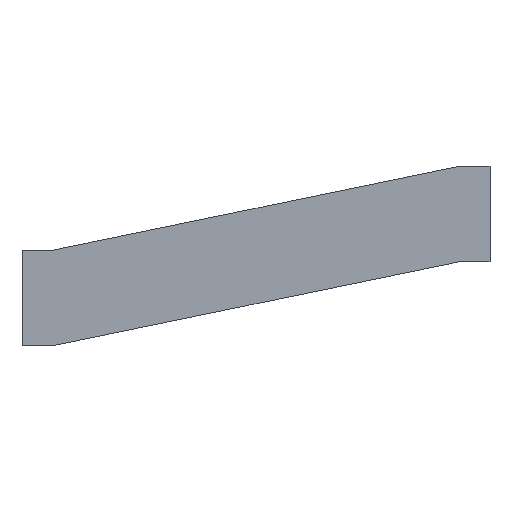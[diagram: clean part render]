
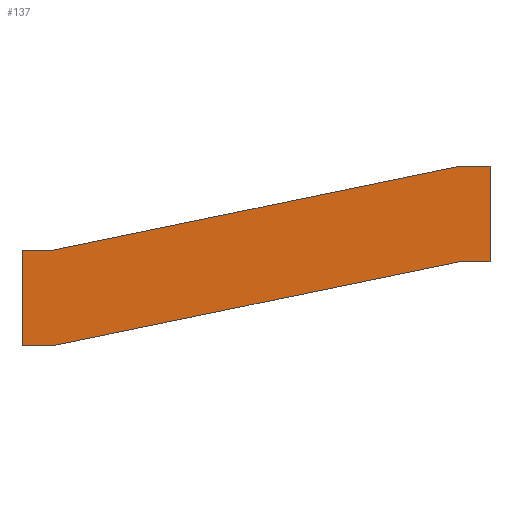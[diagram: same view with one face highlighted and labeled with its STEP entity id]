
A CAD part, front view. The second image highlights one B-rep face of the part: STEP entity #137.
In plain terms, the highlighted planar face has unit normal (0, -1, 0).
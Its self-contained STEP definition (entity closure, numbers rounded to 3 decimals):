
#21 = EDGE_CURVE('',#22,#24,#26,.T.);
#22 = VERTEX_POINT('',#23);
#23 = CARTESIAN_POINT('',(105.95,58.4,149.05));
#24 = VERTEX_POINT('',#25);
#25 = CARTESIAN_POINT('',(105.95,58.4,151.55));
#26 = SURFACE_CURVE('',#27,(#31,#43),.PCURVE_S1.);
#27 = LINE('',#28,#29);
#28 = CARTESIAN_POINT('',(105.95,58.4,149.05));
#29 = VECTOR('',#30,1.);
#30 = DIRECTION('',(0.,0.,1.));
#31 = PCURVE('',#32,#37);
#32 = PLANE('',#33);
#33 = AXIS2_PLACEMENT_3D('',#34,#35,#36);
#34 = CARTESIAN_POINT('',(105.95,58.4,149.05));
#35 = DIRECTION('',(1.,0.,0.));
#36 = DIRECTION('',(0.,0.,1.));
#37 = DEFINITIONAL_REPRESENTATION('',(#38),#42);
#38 = LINE('',#39,#40);
#39 = CARTESIAN_POINT('',(0.,0.));
#40 = VECTOR('',#41,1.);
#41 = DIRECTION('',(1.,0.));
#42 = ( GEOMETRIC_REPRESENTATION_CONTEXT(2) 
PARAMETRIC_REPRESENTATION_CONTEXT() REPRESENTATION_CONTEXT('2D SPACE',''
  ) );
#43 = PCURVE('',#44,#49);
#44 = PLANE('',#45);
#45 = AXIS2_PLACEMENT_3D('',#46,#47,#48);
#46 = CARTESIAN_POINT('',(105.95,58.4,149.05));
#47 = DIRECTION('',(0.,1.,0.));
#48 = DIRECTION('',(0.,0.,1.));
#49 = DEFINITIONAL_REPRESENTATION('',(#50),#54);
#50 = LINE('',#51,#52);
#51 = CARTESIAN_POINT('',(0.,0.));
#52 = VECTOR('',#53,1.);
#53 = DIRECTION('',(1.,0.));
#54 = ( GEOMETRIC_REPRESENTATION_CONTEXT(2) 
PARAMETRIC_REPRESENTATION_CONTEXT() REPRESENTATION_CONTEXT('2D SPACE',''
  ) );
#72 = PLANE('',#73);
#73 = AXIS2_PLACEMENT_3D('',#74,#75,#76);
#74 = CARTESIAN_POINT('',(105.95,58.4,149.05));
#75 = DIRECTION('',(0.,0.,1.));
#76 = DIRECTION('',(1.,0.,0.));
#126 = PLANE('',#127);
#127 = AXIS2_PLACEMENT_3D('',#128,#129,#130);
#128 = CARTESIAN_POINT('',(105.95,58.4,151.55));
#129 = DIRECTION('',(0.,0.,1.));
#130 = DIRECTION('',(1.,0.,0.));
#137 = ADVANCED_FACE('',(#138),#44,.F.);
#138 = FACE_BOUND('',#139,.F.);
#139 = EDGE_LOOP('',(#140,#163,#164,#187,#215,#243,#271,#299));
#140 = ORIENTED_EDGE('',*,*,#141,.F.);
#141 = EDGE_CURVE('',#22,#142,#144,.T.);
#142 = VERTEX_POINT('',#143);
#143 = CARTESIAN_POINT('',(106.75,58.4,149.05));
#144 = SURFACE_CURVE('',#145,(#149,#156),.PCURVE_S1.);
#145 = LINE('',#146,#147);
#146 = CARTESIAN_POINT('',(105.95,58.4,149.05));
#147 = VECTOR('',#148,1.);
#148 = DIRECTION('',(1.,0.,0.));
#149 = PCURVE('',#44,#150);
#150 = DEFINITIONAL_REPRESENTATION('',(#151),#155);
#151 = LINE('',#152,#153);
#152 = CARTESIAN_POINT('',(0.,0.));
#153 = VECTOR('',#154,1.);
#154 = DIRECTION('',(0.,1.));
#155 = ( GEOMETRIC_REPRESENTATION_CONTEXT(2) 
PARAMETRIC_REPRESENTATION_CONTEXT() REPRESENTATION_CONTEXT('2D SPACE',''
  ) );
#156 = PCURVE('',#72,#157);
#157 = DEFINITIONAL_REPRESENTATION('',(#158),#162);
#158 = LINE('',#159,#160);
#159 = CARTESIAN_POINT('',(0.,0.));
#160 = VECTOR('',#161,1.);
#161 = DIRECTION('',(1.,0.));
#162 = ( GEOMETRIC_REPRESENTATION_CONTEXT(2) 
PARAMETRIC_REPRESENTATION_CONTEXT() REPRESENTATION_CONTEXT('2D SPACE',''
  ) );
#163 = ORIENTED_EDGE('',*,*,#21,.T.);
#164 = ORIENTED_EDGE('',*,*,#165,.T.);
#165 = EDGE_CURVE('',#24,#166,#168,.T.);
#166 = VERTEX_POINT('',#167);
#167 = CARTESIAN_POINT('',(106.75,58.4,151.55));
#168 = SURFACE_CURVE('',#169,(#173,#180),.PCURVE_S1.);
#169 = LINE('',#170,#171);
#170 = CARTESIAN_POINT('',(105.95,58.4,151.55));
#171 = VECTOR('',#172,1.);
#172 = DIRECTION('',(1.,0.,0.));
#173 = PCURVE('',#44,#174);
#174 = DEFINITIONAL_REPRESENTATION('',(#175),#179);
#175 = LINE('',#176,#177);
#176 = CARTESIAN_POINT('',(2.5,0.));
#177 = VECTOR('',#178,1.);
#178 = DIRECTION('',(0.,1.));
#179 = ( GEOMETRIC_REPRESENTATION_CONTEXT(2) 
PARAMETRIC_REPRESENTATION_CONTEXT() REPRESENTATION_CONTEXT('2D SPACE',''
  ) );
#180 = PCURVE('',#126,#181);
#181 = DEFINITIONAL_REPRESENTATION('',(#182),#186);
#182 = LINE('',#183,#184);
#183 = CARTESIAN_POINT('',(0.,0.));
#184 = VECTOR('',#185,1.);
#185 = DIRECTION('',(1.,0.));
#186 = ( GEOMETRIC_REPRESENTATION_CONTEXT(2) 
PARAMETRIC_REPRESENTATION_CONTEXT() REPRESENTATION_CONTEXT('2D SPACE',''
  ) );
#187 = ORIENTED_EDGE('',*,*,#188,.F.);
#188 = EDGE_CURVE('',#189,#166,#191,.T.);
#189 = VERTEX_POINT('',#190);
#190 = CARTESIAN_POINT('',(117.4,58.4,153.75));
#191 = SURFACE_CURVE('',#192,(#196,#203),.PCURVE_S1.);
#192 = LINE('',#193,#194);
#193 = CARTESIAN_POINT('',(117.4,58.4,153.75));
#194 = VECTOR('',#195,1.);
#195 = DIRECTION('',(-0.979,0.,-0.202));
#196 = PCURVE('',#44,#197);
#197 = DEFINITIONAL_REPRESENTATION('',(#198),#202);
#198 = LINE('',#199,#200);
#199 = CARTESIAN_POINT('',(4.7,11.45));
#200 = VECTOR('',#201,1.);
#201 = DIRECTION('',(-0.202,-0.979));
#202 = ( GEOMETRIC_REPRESENTATION_CONTEXT(2) 
PARAMETRIC_REPRESENTATION_CONTEXT() REPRESENTATION_CONTEXT('2D SPACE',''
  ) );
#203 = PCURVE('',#204,#209);
#204 = PLANE('',#205);
#205 = AXIS2_PLACEMENT_3D('',#206,#207,#208);
#206 = CARTESIAN_POINT('',(117.4,58.4,153.75));
#207 = DIRECTION('',(-0.202,0.,0.979));
#208 = DIRECTION('',(-0.979,0.,-0.202));
#209 = DEFINITIONAL_REPRESENTATION('',(#210),#214);
#210 = LINE('',#211,#212);
#211 = CARTESIAN_POINT('',(0.,0.));
#212 = VECTOR('',#213,1.);
#213 = DIRECTION('',(1.,0.));
#214 = ( GEOMETRIC_REPRESENTATION_CONTEXT(2) 
PARAMETRIC_REPRESENTATION_CONTEXT() REPRESENTATION_CONTEXT('2D SPACE',''
  ) );
#215 = ORIENTED_EDGE('',*,*,#216,.T.);
#216 = EDGE_CURVE('',#189,#217,#219,.T.);
#217 = VERTEX_POINT('',#218);
#218 = CARTESIAN_POINT('',(118.2,58.4,153.75));
#219 = SURFACE_CURVE('',#220,(#224,#231),.PCURVE_S1.);
#220 = LINE('',#221,#222);
#221 = CARTESIAN_POINT('',(117.4,58.4,153.75));
#222 = VECTOR('',#223,1.);
#223 = DIRECTION('',(1.,0.,0.));
#224 = PCURVE('',#44,#225);
#225 = DEFINITIONAL_REPRESENTATION('',(#226),#230);
#226 = LINE('',#227,#228);
#227 = CARTESIAN_POINT('',(4.7,11.45));
#228 = VECTOR('',#229,1.);
#229 = DIRECTION('',(0.,1.));
#230 = ( GEOMETRIC_REPRESENTATION_CONTEXT(2) 
PARAMETRIC_REPRESENTATION_CONTEXT() REPRESENTATION_CONTEXT('2D SPACE',''
  ) );
#231 = PCURVE('',#232,#237);
#232 = PLANE('',#233);
#233 = AXIS2_PLACEMENT_3D('',#234,#235,#236);
#234 = CARTESIAN_POINT('',(117.4,58.4,153.75));
#235 = DIRECTION('',(0.,0.,1.));
#236 = DIRECTION('',(1.,0.,0.));
#237 = DEFINITIONAL_REPRESENTATION('',(#238),#242);
#238 = LINE('',#239,#240);
#239 = CARTESIAN_POINT('',(0.,0.));
#240 = VECTOR('',#241,1.);
#241 = DIRECTION('',(1.,0.));
#242 = ( GEOMETRIC_REPRESENTATION_CONTEXT(2) 
PARAMETRIC_REPRESENTATION_CONTEXT() REPRESENTATION_CONTEXT('2D SPACE',''
  ) );
#243 = ORIENTED_EDGE('',*,*,#244,.F.);
#244 = EDGE_CURVE('',#245,#217,#247,.T.);
#245 = VERTEX_POINT('',#246);
#246 = CARTESIAN_POINT('',(118.2,58.4,151.25));
#247 = SURFACE_CURVE('',#248,(#252,#259),.PCURVE_S1.);
#248 = LINE('',#249,#250);
#249 = CARTESIAN_POINT('',(118.2,58.4,151.25));
#250 = VECTOR('',#251,1.);
#251 = DIRECTION('',(0.,0.,1.));
#252 = PCURVE('',#44,#253);
#253 = DEFINITIONAL_REPRESENTATION('',(#254),#258);
#254 = LINE('',#255,#256);
#255 = CARTESIAN_POINT('',(2.2,12.25));
#256 = VECTOR('',#257,1.);
#257 = DIRECTION('',(1.,0.));
#258 = ( GEOMETRIC_REPRESENTATION_CONTEXT(2) 
PARAMETRIC_REPRESENTATION_CONTEXT() REPRESENTATION_CONTEXT('2D SPACE',''
  ) );
#259 = PCURVE('',#260,#265);
#260 = PLANE('',#261);
#261 = AXIS2_PLACEMENT_3D('',#262,#263,#264);
#262 = CARTESIAN_POINT('',(118.2,58.4,151.25));
#263 = DIRECTION('',(1.,0.,0.));
#264 = DIRECTION('',(0.,0.,1.));
#265 = DEFINITIONAL_REPRESENTATION('',(#266),#270);
#266 = LINE('',#267,#268);
#267 = CARTESIAN_POINT('',(0.,0.));
#268 = VECTOR('',#269,1.);
#269 = DIRECTION('',(1.,0.));
#270 = ( GEOMETRIC_REPRESENTATION_CONTEXT(2) 
PARAMETRIC_REPRESENTATION_CONTEXT() REPRESENTATION_CONTEXT('2D SPACE',''
  ) );
#271 = ORIENTED_EDGE('',*,*,#272,.F.);
#272 = EDGE_CURVE('',#273,#245,#275,.T.);
#273 = VERTEX_POINT('',#274);
#274 = CARTESIAN_POINT('',(117.4,58.4,151.25));
#275 = SURFACE_CURVE('',#276,(#280,#287),.PCURVE_S1.);
#276 = LINE('',#277,#278);
#277 = CARTESIAN_POINT('',(117.4,58.4,151.25));
#278 = VECTOR('',#279,1.);
#279 = DIRECTION('',(1.,0.,0.));
#280 = PCURVE('',#44,#281);
#281 = DEFINITIONAL_REPRESENTATION('',(#282),#286);
#282 = LINE('',#283,#284);
#283 = CARTESIAN_POINT('',(2.2,11.45));
#284 = VECTOR('',#285,1.);
#285 = DIRECTION('',(0.,1.));
#286 = ( GEOMETRIC_REPRESENTATION_CONTEXT(2) 
PARAMETRIC_REPRESENTATION_CONTEXT() REPRESENTATION_CONTEXT('2D SPACE',''
  ) );
#287 = PCURVE('',#288,#293);
#288 = PLANE('',#289);
#289 = AXIS2_PLACEMENT_3D('',#290,#291,#292);
#290 = CARTESIAN_POINT('',(117.4,58.4,151.25));
#291 = DIRECTION('',(0.,0.,1.));
#292 = DIRECTION('',(1.,0.,0.));
#293 = DEFINITIONAL_REPRESENTATION('',(#294),#298);
#294 = LINE('',#295,#296);
#295 = CARTESIAN_POINT('',(0.,0.));
#296 = VECTOR('',#297,1.);
#297 = DIRECTION('',(1.,0.));
#298 = ( GEOMETRIC_REPRESENTATION_CONTEXT(2) 
PARAMETRIC_REPRESENTATION_CONTEXT() REPRESENTATION_CONTEXT('2D SPACE',''
  ) );
#299 = ORIENTED_EDGE('',*,*,#300,.F.);
#300 = EDGE_CURVE('',#142,#273,#301,.T.);
#301 = SURFACE_CURVE('',#302,(#306,#313),.PCURVE_S1.);
#302 = LINE('',#303,#304);
#303 = CARTESIAN_POINT('',(106.75,58.4,149.05));
#304 = VECTOR('',#305,1.);
#305 = DIRECTION('',(0.979,0.,0.202));
#306 = PCURVE('',#44,#307);
#307 = DEFINITIONAL_REPRESENTATION('',(#308),#312);
#308 = LINE('',#309,#310);
#309 = CARTESIAN_POINT('',(0.,0.8));
#310 = VECTOR('',#311,1.);
#311 = DIRECTION('',(0.202,0.979));
#312 = ( GEOMETRIC_REPRESENTATION_CONTEXT(2) 
PARAMETRIC_REPRESENTATION_CONTEXT() REPRESENTATION_CONTEXT('2D SPACE',''
  ) );
#313 = PCURVE('',#314,#319);
#314 = PLANE('',#315);
#315 = AXIS2_PLACEMENT_3D('',#316,#317,#318);
#316 = CARTESIAN_POINT('',(106.75,58.4,149.05));
#317 = DIRECTION('',(0.202,0.,-0.979));
#318 = DIRECTION('',(0.979,0.,0.202));
#319 = DEFINITIONAL_REPRESENTATION('',(#320),#324);
#320 = LINE('',#321,#322);
#321 = CARTESIAN_POINT('',(0.,0.));
#322 = VECTOR('',#323,1.);
#323 = DIRECTION('',(1.,0.));
#324 = ( GEOMETRIC_REPRESENTATION_CONTEXT(2) 
PARAMETRIC_REPRESENTATION_CONTEXT() REPRESENTATION_CONTEXT('2D SPACE',''
  ) );
